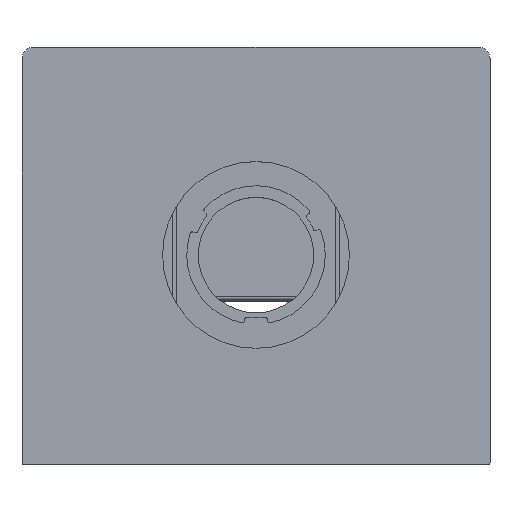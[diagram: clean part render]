
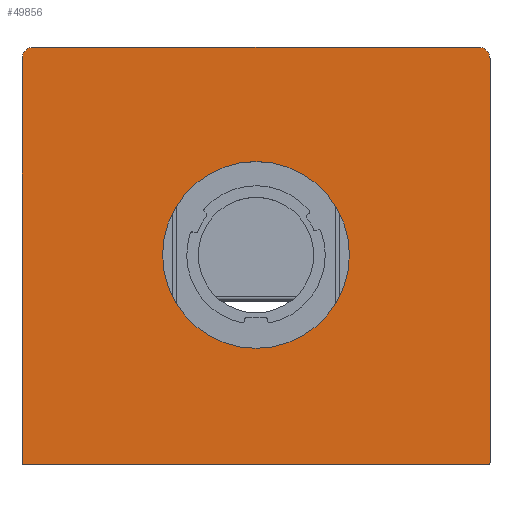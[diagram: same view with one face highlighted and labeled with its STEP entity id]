
A CAD part, top view. The second image highlights one B-rep face of the part: STEP entity #49856.
In plain terms, the highlighted planar face has unit normal (0, 0, 1).
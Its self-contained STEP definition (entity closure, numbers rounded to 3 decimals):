
#869=FACE_BOUND('',#7735,.T.);
#2289=PLANE('',#54415);
#4886=FACE_OUTER_BOUND('',#7734,.T.);
#7734=EDGE_LOOP('',(#43636,#43637,#43638,#43639,#43640,#43641,#43642,#43643));
#7735=EDGE_LOOP('',(#43644));
#12341=LINE('',#87891,#16952);
#12344=LINE('',#87897,#16955);
#12345=LINE('',#87901,#16956);
#12346=LINE('',#87905,#16957);
#16952=VECTOR('',#68016,10.);
#16955=VECTOR('',#68021,10.);
#16956=VECTOR('',#68024,10.);
#16957=VECTOR('',#68027,10.);
#18849=CIRCLE('',#54413,2.);
#18850=CIRCLE('',#54416,11.);
#18851=CIRCLE('',#54417,11.);
#18852=CIRCLE('',#54418,2.);
#18853=CIRCLE('',#54419,89.);
#23155=VERTEX_POINT('',#87884);
#23156=VERTEX_POINT('',#87886);
#23157=VERTEX_POINT('',#87890);
#23159=VERTEX_POINT('',#87896);
#23160=VERTEX_POINT('',#87898);
#23161=VERTEX_POINT('',#87900);
#23162=VERTEX_POINT('',#87902);
#23163=VERTEX_POINT('',#87904);
#23164=VERTEX_POINT('',#87907);
#29983=EDGE_CURVE('',#23155,#23156,#18849,.T.);
#29985=EDGE_CURVE('',#23156,#23157,#12341,.T.);
#29988=EDGE_CURVE('',#23159,#23155,#12344,.T.);
#29989=EDGE_CURVE('',#23160,#23159,#18850,.T.);
#29990=EDGE_CURVE('',#23161,#23160,#12345,.T.);
#29991=EDGE_CURVE('',#23162,#23161,#18851,.T.);
#29992=EDGE_CURVE('',#23163,#23162,#12346,.T.);
#29993=EDGE_CURVE('',#23157,#23163,#18852,.T.);
#29994=EDGE_CURVE('',#23164,#23164,#18853,.T.);
#43636=ORIENTED_EDGE('',*,*,#29983,.F.);
#43637=ORIENTED_EDGE('',*,*,#29988,.F.);
#43638=ORIENTED_EDGE('',*,*,#29989,.F.);
#43639=ORIENTED_EDGE('',*,*,#29990,.F.);
#43640=ORIENTED_EDGE('',*,*,#29991,.F.);
#43641=ORIENTED_EDGE('',*,*,#29992,.F.);
#43642=ORIENTED_EDGE('',*,*,#29993,.F.);
#43643=ORIENTED_EDGE('',*,*,#29985,.F.);
#43644=ORIENTED_EDGE('',*,*,#29994,.T.);
#49856=ADVANCED_FACE('',(#4886,#869),#2289,.F.);
#54413=AXIS2_PLACEMENT_3D('',#87887,#68011,#68012);
#54415=AXIS2_PLACEMENT_3D('',#87895,#68019,#68020);
#54416=AXIS2_PLACEMENT_3D('',#87899,#68022,#68023);
#54417=AXIS2_PLACEMENT_3D('',#87903,#68025,#68026);
#54418=AXIS2_PLACEMENT_3D('',#87906,#68028,#68029);
#54419=AXIS2_PLACEMENT_3D('',#87908,#68030,#68031);
#68011=DIRECTION('center_axis',(0.,0.,
-1.));
#68012=DIRECTION('ref_axis',(0.707,-0.707,0.));
#68016=DIRECTION('',(-1.,0.,0.));
#68019=DIRECTION('center_axis',(0.,0.,
-1.));
#68020=DIRECTION('ref_axis',(1.,0.,0.));
#68021=DIRECTION('',(0.,-1.,0.));
#68022=DIRECTION('center_axis',(0.,0.,
-1.));
#68023=DIRECTION('ref_axis',(0.707,0.707,0.));
#68024=DIRECTION('',(1.,0.,0.));
#68025=DIRECTION('center_axis',(0.,0.,
-1.));
#68026=DIRECTION('ref_axis',(-0.707,0.707,0.));
#68027=DIRECTION('',(0.,1.,0.));
#68028=DIRECTION('center_axis',(0.,0.,
-1.));
#68029=DIRECTION('ref_axis',(-0.707,-0.707,0.));
#68030=DIRECTION('center_axis',(0.,0.,
-1.));
#68031=DIRECTION('ref_axis',(1.,0.,0.));
#87884=CARTESIAN_POINT('',(223.,-393.,624.5));
#87886=CARTESIAN_POINT('',(221.,-395.,624.5));
#87887=CARTESIAN_POINT('Origin',(221.,-393.,624.5));
#87890=CARTESIAN_POINT('',(-221.,-395.,624.5));
#87891=CARTESIAN_POINT('',(223.,-395.,624.5));
#87895=CARTESIAN_POINT('Origin',(0.,-196.,624.5));
#87896=CARTESIAN_POINT('',(223.,-8.,624.5));
#87897=CARTESIAN_POINT('',(223.,3.,624.5));
#87898=CARTESIAN_POINT('',(212.,3.,624.5));
#87899=CARTESIAN_POINT('Origin',(212.,-8.,624.5));
#87900=CARTESIAN_POINT('',(-212.,3.,624.5));
#87901=CARTESIAN_POINT('',(-223.,3.,624.5));
#87902=CARTESIAN_POINT('',(-223.,-8.,624.5));
#87903=CARTESIAN_POINT('Origin',(-212.,-8.,624.5));
#87904=CARTESIAN_POINT('',(-223.,-393.,624.5));
#87905=CARTESIAN_POINT('',(-223.,-395.,624.5));
#87906=CARTESIAN_POINT('Origin',(-221.,-393.,624.5));
#87907=CARTESIAN_POINT('',(-89.,-195.,624.5));
#87908=CARTESIAN_POINT('Origin',(0.,-195.,624.5));
